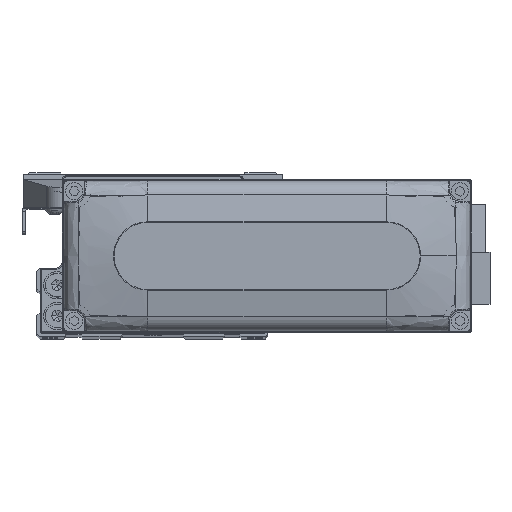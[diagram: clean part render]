
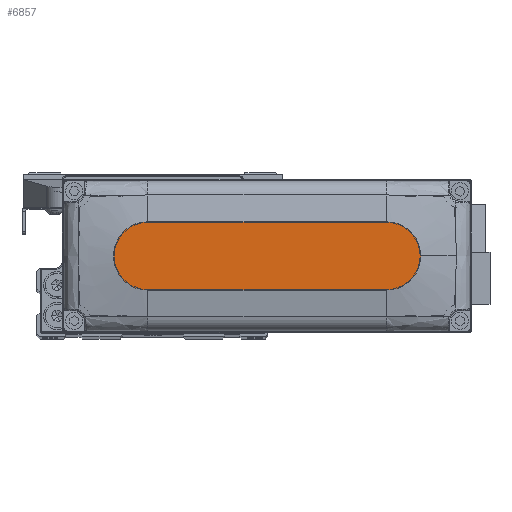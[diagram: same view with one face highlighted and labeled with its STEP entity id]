
A CAD part, top view. The second image highlights one B-rep face of the part: STEP entity #6857.
In plain terms, the highlighted planar face has unit normal (0, 0, 1).
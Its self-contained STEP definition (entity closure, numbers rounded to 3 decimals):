
#1644 = CIRCLE ( 'NONE', #26411, 10. ) ;
#2737 = EDGE_CURVE ( 'NONE', #11006, #32735, #34462, .T. ) ;
#2936 = AXIS2_PLACEMENT_3D ( 'NONE', #34099, #3723, #17256 ) ;
#3353 = CARTESIAN_POINT ( 'NONE',  ( -35., -10., 28. ) ) ;
#3423 = DIRECTION ( 'NONE',  ( 1., 0., 0. ) ) ;
#3645 = CARTESIAN_POINT ( 'NONE',  ( 35., 10., 28. ) ) ;
#3723 = DIRECTION ( 'NONE',  ( 0., 0., 1. ) ) ;
#4083 = CARTESIAN_POINT ( 'NONE',  ( -35., 10., 28. ) ) ;
#6857 = ADVANCED_FACE ( 'NONE', ( #26298 ), #39803, .T. ) ;
#6994 = ORIENTED_EDGE ( 'NONE', *, *, #36484, .T. ) ;
#8236 = LINE ( 'NONE', #21743, #8879 ) ;
#8879 = VECTOR ( 'NONE', #35268, 1000. ) ;
#9395 = CIRCLE ( 'NONE', #34151, 10. ) ;
#9462 = CARTESIAN_POINT ( 'NONE',  ( 0., 0., 28. ) ) ;
#11006 = VERTEX_POINT ( 'NONE', #3645 ) ;
#11464 = DIRECTION ( 'NONE',  ( 1., 0., 0. ) ) ;
#16280 = CARTESIAN_POINT ( 'NONE',  ( -35., 10., 28. ) ) ;
#16396 = CIRCLE ( 'NONE', #2936, 10. ) ;
#16805 = CARTESIAN_POINT ( 'NONE',  ( 35., -10., 28. ) ) ;
#17256 = DIRECTION ( 'NONE',  ( 1., 0., 0. ) ) ;
#17615 = DIRECTION ( 'NONE',  ( -1., 0., 0. ) ) ;
#18740 = ORIENTED_EDGE ( 'NONE', *, *, #19549, .T. ) ;
#19549 = EDGE_CURVE ( 'NONE', #28502, #20281, #8236, .T. ) ;
#19960 = CARTESIAN_POINT ( 'NONE',  ( 45., 0., 28. ) ) ;
#20281 = VERTEX_POINT ( 'NONE', #16805 ) ;
#20282 = CARTESIAN_POINT ( 'NONE',  ( 35., 0., 28. ) ) ;
#21157 = ORIENTED_EDGE ( 'NONE', *, *, #33730, .T. ) ;
#21743 = CARTESIAN_POINT ( 'NONE',  ( -35., -10., 28. ) ) ;
#22973 = DIRECTION ( 'NONE',  ( 0., 0., 1. ) ) ;
#24792 = AXIS2_PLACEMENT_3D ( 'NONE', #9462, #22973, #36504 ) ;
#26298 = FACE_OUTER_BOUND ( 'NONE', #35872, .T. ) ;
#26411 = AXIS2_PLACEMENT_3D ( 'NONE', #28296, #41815, #11464 ) ;
#28296 = CARTESIAN_POINT ( 'NONE',  ( -35., 0., 28. ) ) ;
#28502 = VERTEX_POINT ( 'NONE', #3353 ) ;
#30888 = EDGE_CURVE ( 'NONE', #32735, #28502, #1644, .T. ) ;
#32735 = VERTEX_POINT ( 'NONE', #16280 ) ;
#33122 = ORIENTED_EDGE ( 'NONE', *, *, #30888, .T. ) ;
#33730 = EDGE_CURVE ( 'NONE', #20281, #42896, #16396, .T. ) ;
#33800 = DIRECTION ( 'NONE',  ( 0., 0., 1. ) ) ;
#34099 = CARTESIAN_POINT ( 'NONE',  ( 35., 0., 28. ) ) ;
#34151 = AXIS2_PLACEMENT_3D ( 'NONE', #20282, #33800, #3423 ) ;
#34462 = LINE ( 'NONE', #4083, #39574 ) ;
#35031 = ORIENTED_EDGE ( 'NONE', *, *, #2737, .T. ) ;
#35268 = DIRECTION ( 'NONE',  ( 1., 0., 0. ) ) ;
#35872 = EDGE_LOOP ( 'NONE', ( #35031, #33122, #18740, #21157, #6994 ) ) ;
#36484 = EDGE_CURVE ( 'NONE', #42896, #11006, #9395, .T. ) ;
#36504 = DIRECTION ( 'NONE',  ( 1., 0., 0. ) ) ;
#39574 = VECTOR ( 'NONE', #17615, 1000. ) ;
#39803 = PLANE ( 'NONE',  #24792 ) ;
#41815 = DIRECTION ( 'NONE',  ( 0., 0., 1. ) ) ;
#42896 = VERTEX_POINT ( 'NONE', #19960 ) ;
